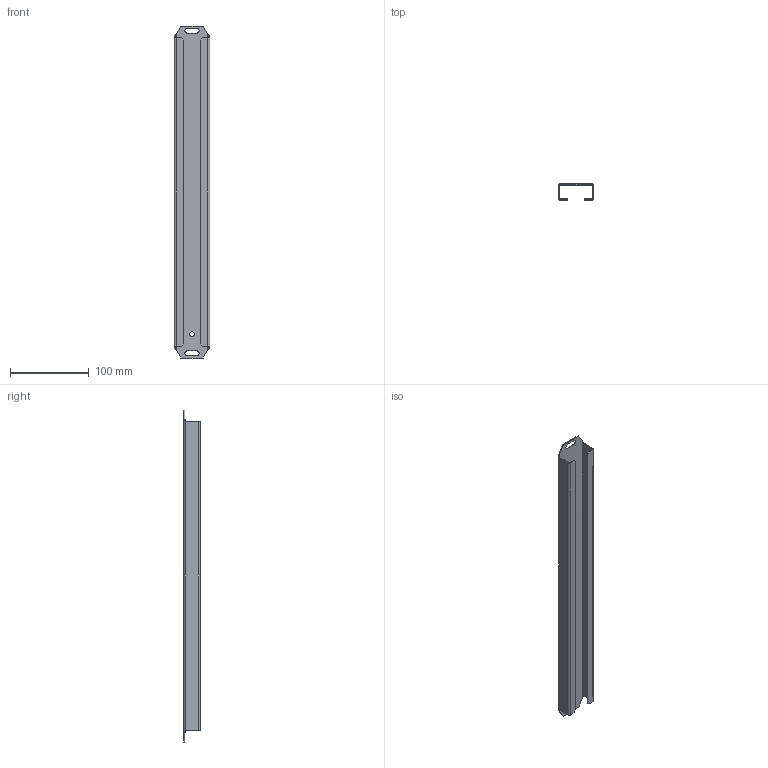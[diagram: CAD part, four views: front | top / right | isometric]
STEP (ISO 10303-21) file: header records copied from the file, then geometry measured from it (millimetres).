
FILE_DESCRIPTION (( 'STEP AP214' ), '1' );
FILE_NAME ('PKV 60 B Ïàíåëü êàáåëüíîãî ââîäà óçêàÿ.STEP', '2023-10-09T15:13:38', ( '' ), ( '' ), 'SwSTEP 2.0', 'SolidWorks 2022', '' );
FILE_SCHEMA (( 'AUTOMOTIVE_DESIGN' ));
Length unit declared in the file: millimetre
Products named in the file (1): PKV 60 B Панель кабельного ввода узкая
Bounding box: 45 x 20.5 x 420.5 mm (x, y, z)
Volume: 48645.2 mm3; surface area: 82417.9 mm2
Topology: 1 solids, 1 shells, 56 faces, 130 edges, 76 vertices
Faces by surface type: plane 38, cylinder 14, bspline 4
Entity records: 1704 total; most frequent: CARTESIAN_POINT 427, ORIENTED_EDGE 260, DIRECTION 240, EDGE_CURVE 130, VECTOR 94, LINE 94, VERTEX_POINT 76, AXIS2_PLACEMENT_3D 73
